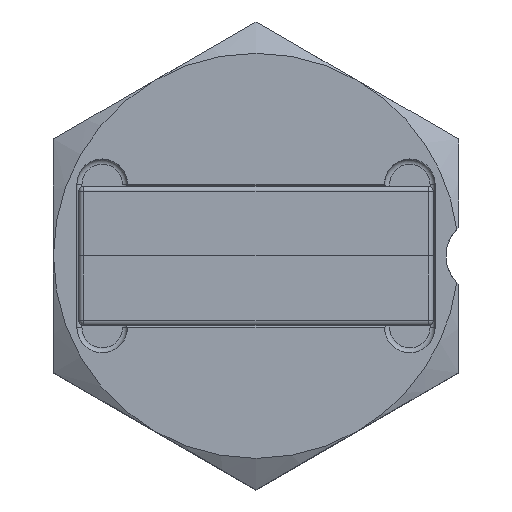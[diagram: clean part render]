
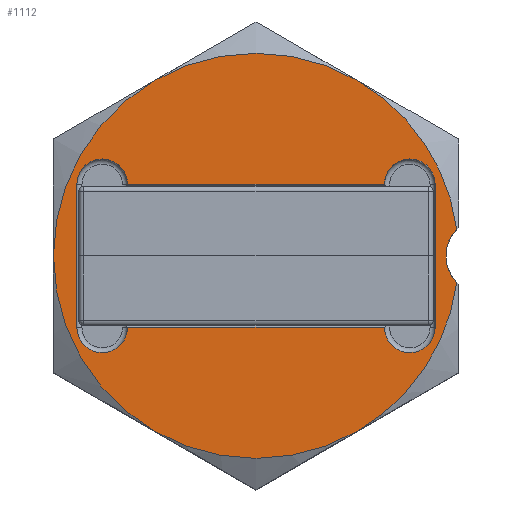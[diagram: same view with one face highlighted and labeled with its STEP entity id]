
A CAD part, top view. The second image highlights one B-rep face of the part: STEP entity #1112.
In plain terms, the highlighted planar face has unit normal (0, 0, 1).
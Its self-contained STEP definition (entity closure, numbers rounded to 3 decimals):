
#43 = EDGE_CURVE ( 'NONE', #1018, #194, #2476, .T. ) ;
#67 = EDGE_CURVE ( 'NONE', #777, #391, #1278, .T. ) ;
#81 = EDGE_LOOP ( 'NONE', ( #553, #2750, #1707, #3007, #1200, #466, #200, #416 ) ) ;
#134 = CARTESIAN_POINT ( 'NONE',  ( 7.075, 2.825, 0. ) ) ;
#142 = CARTESIAN_POINT ( 'NONE',  ( -7.075, 2.825, 0. ) ) ;
#177 = DIRECTION ( 'NONE',  ( 1., 0., 0. ) ) ;
#194 = VERTEX_POINT ( 'NONE', #1016 ) ;
#196 = CARTESIAN_POINT ( 'NONE',  ( -5.075, 2.825, 0. ) ) ;
#200 = ORIENTED_EDGE ( 'NONE', *, *, #1484, .F. ) ;
#207 = CARTESIAN_POINT ( 'NONE',  ( 0., 0., 0. ) ) ;
#226 = EDGE_CURVE ( 'NONE', #2341, #1078, #2430, .T. ) ;
#232 = CARTESIAN_POINT ( 'NONE',  ( 5.075, -2.825, 0. ) ) ;
#248 = CARTESIAN_POINT ( 'NONE',  ( -5.075, 2.825, 0. ) ) ;
#304 = EDGE_CURVE ( 'NONE', #1976, #777, #2393, .T. ) ;
#320 = LINE ( 'NONE', #1596, #2226 ) ;
#331 = DIRECTION ( 'NONE',  ( 1., 0., 0. ) ) ;
#391 = VERTEX_POINT ( 'NONE', #142 ) ;
#408 = CIRCLE ( 'NONE', #804, 8. ) ;
#416 = ORIENTED_EDGE ( 'NONE', *, *, #869, .F. ) ;
#422 = DIRECTION ( 'NONE',  ( 0., 1., 0. ) ) ;
#455 = DIRECTION ( 'NONE',  ( 0., 0., 1. ) ) ;
#462 = CARTESIAN_POINT ( 'NONE',  ( 7.931, -1.052, 0. ) ) ;
#466 = ORIENTED_EDGE ( 'NONE', *, *, #1082, .F. ) ;
#468 = DIRECTION ( 'NONE',  ( 0., -1., 0. ) ) ;
#514 = CARTESIAN_POINT ( 'NONE',  ( 5.075, 2.825, 0. ) ) ;
#553 = ORIENTED_EDGE ( 'NONE', *, *, #67, .F. ) ;
#575 = CARTESIAN_POINT ( 'NONE',  ( 0., 0., 0. ) ) ;
#691 = CARTESIAN_POINT ( 'NONE',  ( 0., 0., 0. ) ) ;
#701 = CARTESIAN_POINT ( 'NONE',  ( -5.075, -2.825, 0. ) ) ;
#703 = EDGE_CURVE ( 'NONE', #2636, #1976, #895, .T. ) ;
#719 = DIRECTION ( 'NONE',  ( 0., 0., 1. ) ) ;
#777 = VERTEX_POINT ( 'NONE', #196 ) ;
#787 = VERTEX_POINT ( 'NONE', #2348 ) ;
#791 = DIRECTION ( 'NONE',  ( 1., 0., 0. ) ) ;
#793 = DIRECTION ( 'NONE',  ( 0., 0., 1. ) ) ;
#795 = DIRECTION ( 'NONE',  ( 1., 0., 0. ) ) ;
#804 = AXIS2_PLACEMENT_3D ( 'NONE', #575, #1998, #331 ) ;
#842 = ORIENTED_EDGE ( 'NONE', *, *, #226, .F. ) ;
#869 = EDGE_CURVE ( 'NONE', #391, #2743, #1130, .T. ) ;
#895 = CIRCLE ( 'NONE', #2354, 1. ) ;
#908 = EDGE_CURVE ( 'NONE', #2410, #1018, #2206, .T. ) ;
#931 = PLANE ( 'NONE',  #2783 ) ;
#939 = ORIENTED_EDGE ( 'NONE', *, *, #2190, .F. ) ;
#957 = ORIENTED_EDGE ( 'NONE', *, *, #2351, .F. ) ;
#985 = DIRECTION ( 'NONE',  ( 0., 0., 1. ) ) ;
#993 = ORIENTED_EDGE ( 'NONE', *, *, #1983, .F. ) ;
#997 = ORIENTED_EDGE ( 'NONE', *, *, #43, .F. ) ;
#1014 = DIRECTION ( 'NONE',  ( 1., 0., 0. ) ) ;
#1016 = CARTESIAN_POINT ( 'NONE',  ( -4., 6.928, 0. ) ) ;
#1018 = VERTEX_POINT ( 'NONE', #2141 ) ;
#1041 = CARTESIAN_POINT ( 'NONE',  ( -6.075, 2.825, 0. ) ) ;
#1051 = DIRECTION ( 'NONE',  ( 0., 0., -1. ) ) ;
#1078 = VERTEX_POINT ( 'NONE', #462 ) ;
#1082 = EDGE_CURVE ( 'NONE', #787, #2865, #2323, .T. ) ;
#1086 = AXIS2_PLACEMENT_3D ( 'NONE', #2658, #985, #2414 ) ;
#1109 = CIRCLE ( 'NONE', #3018, 8. ) ;
#1112 = ADVANCED_FACE ( 'NONE', ( #2097, #1679 ), #931, .T. ) ;
#1130 = LINE ( 'NONE', #1714, #1905 ) ;
#1187 = CIRCLE ( 'NONE', #1742, 1. ) ;
#1197 = CIRCLE ( 'NONE', #2160, 8. ) ;
#1200 = ORIENTED_EDGE ( 'NONE', *, *, #1814, .F. ) ;
#1251 = CARTESIAN_POINT ( 'NONE',  ( 0., 0., 0. ) ) ;
#1278 = CIRCLE ( 'NONE', #1651, 1. ) ;
#1289 = VERTEX_POINT ( 'NONE', #1808 ) ;
#1303 = AXIS2_PLACEMENT_3D ( 'NONE', #2466, #793, #2224 ) ;
#1466 = DIRECTION ( 'NONE',  ( 1., 0., 0. ) ) ;
#1484 = EDGE_CURVE ( 'NONE', #2743, #787, #1187, .T. ) ;
#1529 = CARTESIAN_POINT ( 'NONE',  ( 7.931, 1.052, 0. ) ) ;
#1588 = EDGE_CURVE ( 'NONE', #2861, #2636, #320, .T. ) ;
#1596 = CARTESIAN_POINT ( 'NONE',  ( 7.075, -2.825, 0. ) ) ;
#1645 = VECTOR ( 'NONE', #3071, 1000. ) ;
#1647 = VECTOR ( 'NONE', #2864, 1000. ) ;
#1651 = AXIS2_PLACEMENT_3D ( 'NONE', #1041, #2468, #795 ) ;
#1671 = CARTESIAN_POINT ( 'NONE',  ( 7.075, -2.825, 0. ) ) ;
#1673 = AXIS2_PLACEMENT_3D ( 'NONE', #2724, #1051, #2481 ) ;
#1679 = FACE_BOUND ( 'NONE', #81, .T. ) ;
#1707 = ORIENTED_EDGE ( 'NONE', *, *, #703, .F. ) ;
#1714 = CARTESIAN_POINT ( 'NONE',  ( -7.075, 2.825, 0. ) ) ;
#1742 = AXIS2_PLACEMENT_3D ( 'NONE', #2385, #719, #2144 ) ;
#1754 = CARTESIAN_POINT ( 'NONE',  ( -4., -6.928, 0. ) ) ;
#1808 = CARTESIAN_POINT ( 'NONE',  ( 4., -6.928, 0. ) ) ;
#1814 = EDGE_CURVE ( 'NONE', #2865, #2861, #2336, .T. ) ;
#1833 = EDGE_CURVE ( 'NONE', #1078, #1289, #2229, .T. ) ;
#1879 = DIRECTION ( 'NONE',  ( 1., 0., 0. ) ) ;
#1886 = DIRECTION ( 'NONE',  ( 0., 0., -1. ) ) ;
#1894 = AXIS2_PLACEMENT_3D ( 'NONE', #2187, #1942, #1466 ) ;
#1905 = VECTOR ( 'NONE', #468, 1000. ) ;
#1942 = DIRECTION ( 'NONE',  ( 0., 0., -1. ) ) ;
#1953 = ORIENTED_EDGE ( 'NONE', *, *, #1833, .F. ) ;
#1976 = VERTEX_POINT ( 'NONE', #514 ) ;
#1983 = EDGE_CURVE ( 'NONE', #194, #2273, #1109, .T. ) ;
#1998 = DIRECTION ( 'NONE',  ( 0., 0., -1. ) ) ;
#2097 = FACE_OUTER_BOUND ( 'NONE', #2787, .T. ) ;
#2141 = CARTESIAN_POINT ( 'NONE',  ( -8., 0., 0. ) ) ;
#2144 = DIRECTION ( 'NONE',  ( 1., 0., 0. ) ) ;
#2160 = AXIS2_PLACEMENT_3D ( 'NONE', #2463, #2933, #791 ) ;
#2187 = CARTESIAN_POINT ( 'NONE',  ( 0., 0., 0. ) ) ;
#2190 = EDGE_CURVE ( 'NONE', #2273, #2341, #1197, .T. ) ;
#2206 = CIRCLE ( 'NONE', #1894, 8. ) ;
#2224 = DIRECTION ( 'NONE',  ( 1., 0., 0. ) ) ;
#2226 = VECTOR ( 'NONE', #422, 1000. ) ;
#2229 = CIRCLE ( 'NONE', #2310, 8. ) ;
#2273 = VERTEX_POINT ( 'NONE', #2697 ) ;
#2310 = AXIS2_PLACEMENT_3D ( 'NONE', #1251, #2687, #1014 ) ;
#2320 = CARTESIAN_POINT ( 'NONE',  ( -7.075, -2.825, 0. ) ) ;
#2323 = LINE ( 'NONE', #701, #1645 ) ;
#2336 = CIRCLE ( 'NONE', #1303, 1. ) ;
#2341 = VERTEX_POINT ( 'NONE', #1529 ) ;
#2348 = CARTESIAN_POINT ( 'NONE',  ( -5.075, -2.825, 0. ) ) ;
#2351 = EDGE_CURVE ( 'NONE', #1289, #2410, #408, .T. ) ;
#2354 = AXIS2_PLACEMENT_3D ( 'NONE', #2577, #2802, #177 ) ;
#2380 = ORIENTED_EDGE ( 'NONE', *, *, #908, .F. ) ;
#2385 = CARTESIAN_POINT ( 'NONE',  ( -6.075, -2.825, 0. ) ) ;
#2393 = LINE ( 'NONE', #248, #1647 ) ;
#2410 = VERTEX_POINT ( 'NONE', #1754 ) ;
#2414 = DIRECTION ( 'NONE',  ( 1., 0., 0. ) ) ;
#2430 = CIRCLE ( 'NONE', #1086, 1.5 ) ;
#2463 = CARTESIAN_POINT ( 'NONE',  ( 0., 0., 0. ) ) ;
#2466 = CARTESIAN_POINT ( 'NONE',  ( 6.075, -2.825, 0. ) ) ;
#2468 = DIRECTION ( 'NONE',  ( 0., 0., 1. ) ) ;
#2476 = CIRCLE ( 'NONE', #1673, 8. ) ;
#2481 = DIRECTION ( 'NONE',  ( -1., 0., 0. ) ) ;
#2577 = CARTESIAN_POINT ( 'NONE',  ( 6.075, 2.825, 0. ) ) ;
#2636 = VERTEX_POINT ( 'NONE', #134 ) ;
#2658 = CARTESIAN_POINT ( 'NONE',  ( 9., 0., 0. ) ) ;
#2687 = DIRECTION ( 'NONE',  ( 0., 0., -1. ) ) ;
#2697 = CARTESIAN_POINT ( 'NONE',  ( 4., 6.928, 0. ) ) ;
#2724 = CARTESIAN_POINT ( 'NONE',  ( 0., 0., 0. ) ) ;
#2743 = VERTEX_POINT ( 'NONE', #2320 ) ;
#2750 = ORIENTED_EDGE ( 'NONE', *, *, #304, .F. ) ;
#2783 = AXIS2_PLACEMENT_3D ( 'NONE', #691, #455, #1879 ) ;
#2787 = EDGE_LOOP ( 'NONE', ( #842, #939, #993, #997, #2380, #957, #1953 ) ) ;
#2802 = DIRECTION ( 'NONE',  ( 0., 0., 1. ) ) ;
#2861 = VERTEX_POINT ( 'NONE', #1671 ) ;
#2864 = DIRECTION ( 'NONE',  ( -1., 0., 0. ) ) ;
#2865 = VERTEX_POINT ( 'NONE', #232 ) ;
#2933 = DIRECTION ( 'NONE',  ( 0., 0., -1. ) ) ;
#3007 = ORIENTED_EDGE ( 'NONE', *, *, #1588, .F. ) ;
#3018 = AXIS2_PLACEMENT_3D ( 'NONE', #207, #1886, #3063 ) ;
#3063 = DIRECTION ( 'NONE',  ( 1., 0., 0. ) ) ;
#3071 = DIRECTION ( 'NONE',  ( 1., 0., 0. ) ) ;
